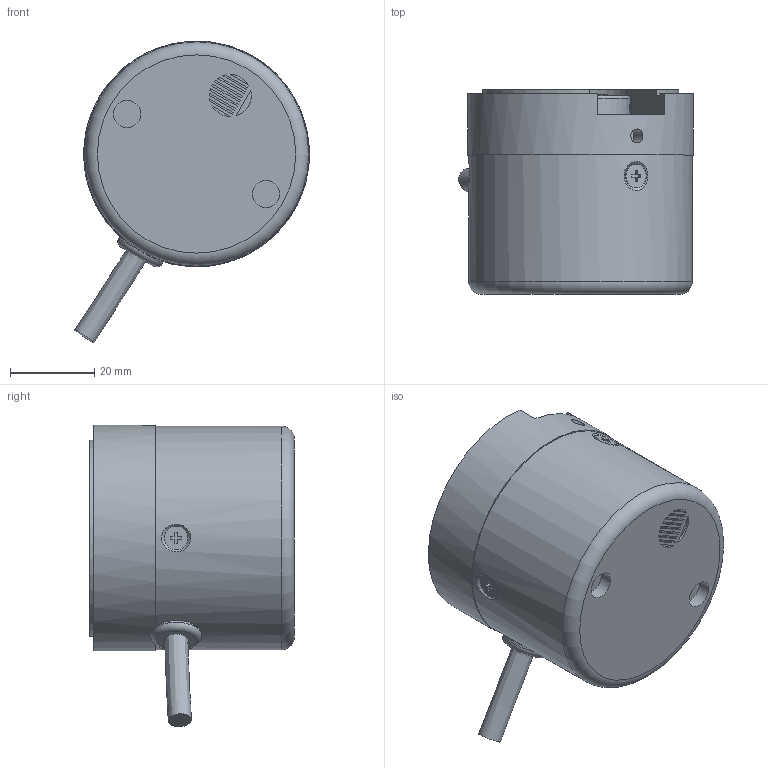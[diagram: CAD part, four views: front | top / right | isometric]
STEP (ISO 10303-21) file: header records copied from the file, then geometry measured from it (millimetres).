
FILE_DESCRIPTION( ( 'Unknown' ), '1' );
FILE_NAME( 'C:/Users/malfermoa/Desktop/step/EH_53A_albero 6 uscita PR.stp', 'Unknown', ( 'Unknown' ), ( 'Unknown' ), 'PSStep 15.0.49', 'Unknown', ' ' );
FILE_SCHEMA( ( 'AUTOMOTIVE_DESIGN { 1 0 10303 214 1 1 1 1 }' ) );
Length unit declared in the file: millimetre
Products named in the file (2): 41330157C2
Bounding box: 55.57 x 48.5 x 71.5 mm (x, y, z)
Volume: 59510.5 mm3; surface area: 35725.4 mm2
Topology: 2 solids, 13 shells, 347 faces, 860 edges, 570 vertices
Faces by surface type: plane 193, cylinder 116, cone 23, bspline 8, torus 7
Full cylindrical faces by diameter (mm): 2.05 x5, 2.459 x8, 2.5 x3, 3.2 x1, 3.3 x1, 3.5 x8, 5.6 x3, 6 x11, 6.5 x2, 8 x1, 9 x1, 13 x1, 16 x1, 22 x1, 23.5 x5, 25 x1, 26 x1, 36 x1, 44 x1, 45 x3, 48 x1, 49 x1, 53 x1, 53.5 x1
Entity records: 15850 total; most frequent: CARTESIAN_POINT 6075, DIRECTION 1447, ORIENTED_EDGE 1352, EDGE_CURVE 676, AXIS2_PLACEMENT_3D 535, VERTEX_POINT 485, EDGE_LOOP 473, FACE_OUTER_BOUND 381
